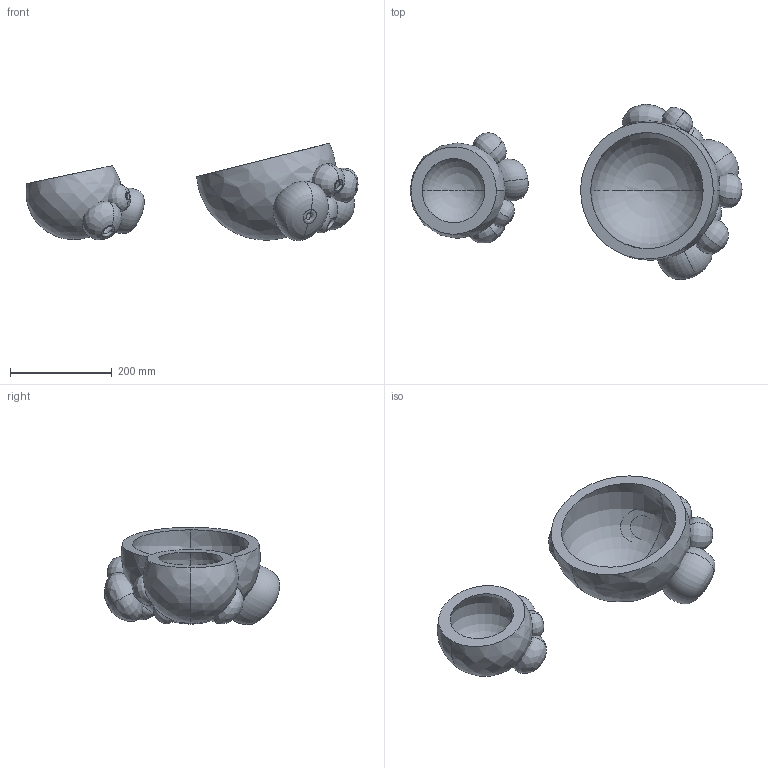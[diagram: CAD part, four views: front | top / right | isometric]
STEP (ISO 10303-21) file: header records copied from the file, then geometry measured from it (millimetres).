
FILE_DESCRIPTION(/* description */ (''),/* implementation_level */ '2;1');
FILE_NAME(/* name */ 'SkLO_SC385,SC386_BloomBowl_3D_',/* time_stamp */ '2026-06-03T13:29:21+02:00',/* author */ (''),/* organization */ (''),/* preprocessor_version */ 'ST-DEVELOPER v19.2',/* originating_system */ 'Rhino 8.31',/* authorisation */ '');
FILE_SCHEMA (('CONFIG_CONTROL_DESIGN'));
Length unit declared in the file: millimetre
Products named in the file (1): Document
Bounding box: 652.36 x 344.35 x 191.28 mm (x, y, z)
Volume: 3676686.1 mm3; surface area: 710255.9 mm2
Topology: 2 solids, 15 shells, 88 faces, 236 edges, 146 vertices
Faces by surface type: bspline 86, plane 2
Entity records: 35682 total; most frequent: CARTESIAN_POINT 34165, ORIENTED_EDGE 400, EDGE_CURVE 228, B_SPLINE_CURVE_WITH_KNOTS 178, VERTEX_POINT 146, EDGE_LOOP 90, ADVANCED_FACE 88, FACE_OUTER_BOUND 88
